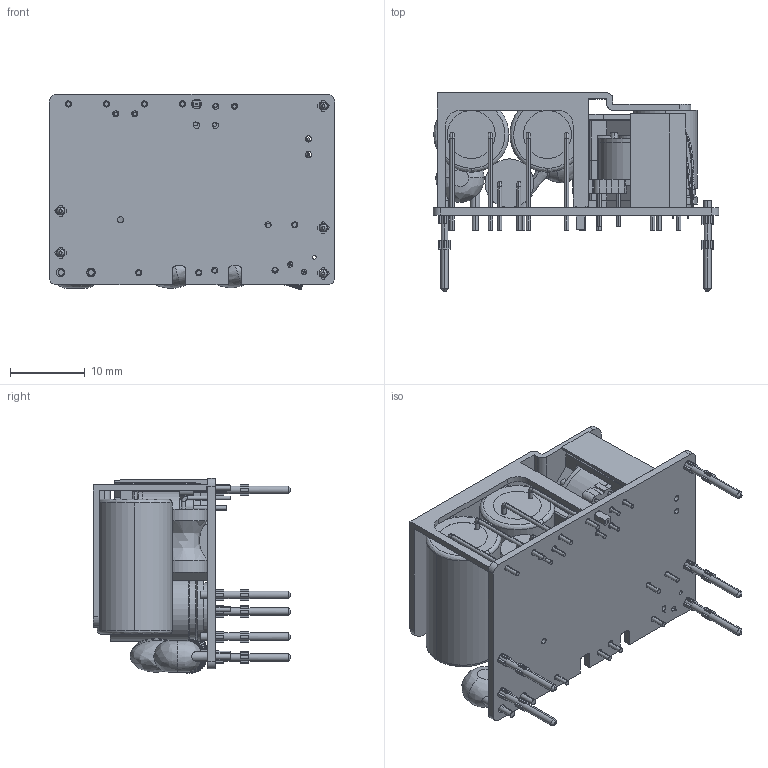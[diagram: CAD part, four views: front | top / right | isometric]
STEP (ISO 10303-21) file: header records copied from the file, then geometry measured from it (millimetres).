
FILE_DESCRIPTION (( 'STEP AP214' ), '1' );
FILE_NAME ('tpp15a-d_below10VDC.STEP', '2017-12-14T12:16:35', ( '' ), ( '' ), 'SwSTEP 2.0', 'SolidWorks 2013', '' );
FILE_SCHEMA (( 'AUTOMOTIVE_DESIGN' ));
Length unit declared in the file: millimetre
Products named in the file (1): tpp15a-d_below10VDC
Bounding box: 38.1 x 26.4 x 26.01 mm (x, y, z)
Volume: 7054.7 mm3; surface area: 9512.5 mm2
Topology: 26 solids, 26 shells, 1713 faces, 4533 edges, 2993 vertices
Faces by surface type: cylinder 637, bspline 538, plane 518, cone 20
Entity records: 84390 total; most frequent: CARTESIAN_POINT 25038, ORIENTED_EDGE 9046, DIRECTION 7911, EDGE_CURVE 4523, AXIS2_PLACEMENT_3D 3102, VERTEX_POINT 2992, CIRCLE 1926, EDGE_LOOP 1911
